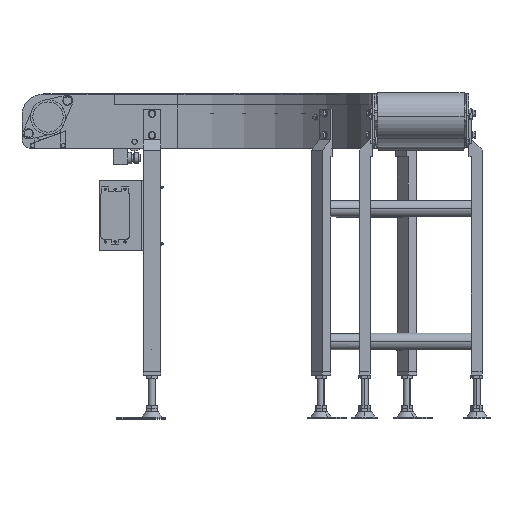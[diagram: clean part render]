
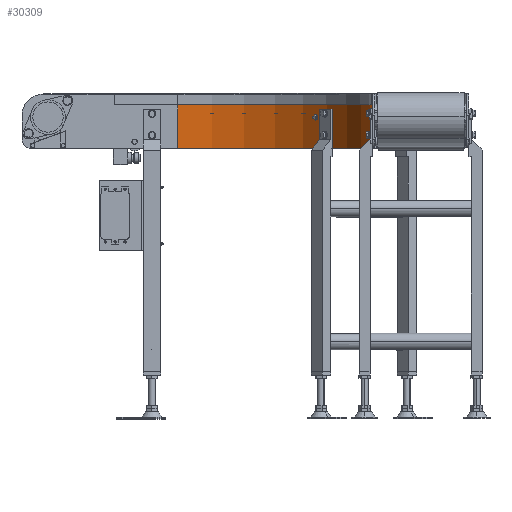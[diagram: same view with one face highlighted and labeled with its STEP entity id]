
A CAD part, top view. The second image highlights one B-rep face of the part: STEP entity #30309.
In plain terms, the highlighted cylindrical face has radius 450 mm (diameter 900 mm), a partial arc.
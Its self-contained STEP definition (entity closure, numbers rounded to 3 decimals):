
#1046 = CARTESIAN_POINT ( 'NONE',  ( 360., -25., 561. ) ) ;
#3895 = AXIS2_PLACEMENT_3D ( 'NONE', #14907, #10378, #47794 ) ;
#4488 = ORIENTED_EDGE ( 'NONE', *, *, #52758, .T. ) ;
#5817 = VERTEX_POINT ( 'NONE', #22948 ) ;
#7651 = ORIENTED_EDGE ( 'NONE', *, *, #50441, .T. ) ;
#7865 = CIRCLE ( 'NONE', #41623, 450. ) ;
#9799 = DIRECTION ( 'NONE',  ( 0., 1., 0. ) ) ;
#10378 = DIRECTION ( 'NONE',  ( 0., 1., 0. ) ) ;
#11546 = VECTOR ( 'NONE', #9799, 1000. ) ;
#12849 = DIRECTION ( 'NONE',  ( 0., 1., 0. ) ) ;
#13000 = VERTEX_POINT ( 'NONE', #18917 ) ;
#14620 = DIRECTION ( 'NONE',  ( 0., 0., -1. ) ) ;
#14907 = CARTESIAN_POINT ( 'NONE',  ( 360., -125., 561. ) ) ;
#15147 = CARTESIAN_POINT ( 'NONE',  ( 360., -125., 111. ) ) ;
#16812 = CARTESIAN_POINT ( 'NONE',  ( 810., -125., 561. ) ) ;
#18099 = FACE_OUTER_BOUND ( 'NONE', #33186, .T. ) ;
#18714 = ORIENTED_EDGE ( 'NONE', *, *, #41337, .T. ) ;
#18741 = CYLINDRICAL_SURFACE ( 'NONE', #3895, 450. ) ;
#18917 = CARTESIAN_POINT ( 'NONE',  ( 810., -25., 561. ) ) ;
#19520 = DIRECTION ( 'NONE',  ( 0., 1., 0. ) ) ;
#21401 = EDGE_CURVE ( 'NONE', #47174, #5817, #35014, .T. ) ;
#22615 = LINE ( 'NONE', #35036, #11546 ) ;
#22948 = CARTESIAN_POINT ( 'NONE',  ( 360., -25., 111. ) ) ;
#27313 = CARTESIAN_POINT ( 'NONE',  ( 360., -125., 561. ) ) ;
#30309 = ADVANCED_FACE ( 'NONE', ( #18099 ), #18741, .F. ) ;
#31982 = CARTESIAN_POINT ( 'NONE',  ( 360., -125., 111. ) ) ;
#33186 = EDGE_LOOP ( 'NONE', ( #18714, #4488, #33687, #7651 ) ) ;
#33687 = ORIENTED_EDGE ( 'NONE', *, *, #21401, .F. ) ;
#34465 = DIRECTION ( 'NONE',  ( 0., 0., 1. ) ) ;
#35014 = LINE ( 'NONE', #15147, #36345 ) ;
#35036 = CARTESIAN_POINT ( 'NONE',  ( 810., -125., 561. ) ) ;
#35502 = VERTEX_POINT ( 'NONE', #16812 ) ;
#36345 = VECTOR ( 'NONE', #19520, 1000. ) ;
#36348 = AXIS2_PLACEMENT_3D ( 'NONE', #1046, #12849, #34465 ) ;
#41337 = EDGE_CURVE ( 'NONE', #35502, #13000, #22615, .T. ) ;
#41623 = AXIS2_PLACEMENT_3D ( 'NONE', #27313, #47519, #14620 ) ;
#44759 = CIRCLE ( 'NONE', #36348, 450. ) ;
#47174 = VERTEX_POINT ( 'NONE', #31982 ) ;
#47519 = DIRECTION ( 'NONE',  ( 0., -1., 0. ) ) ;
#47794 = DIRECTION ( 'NONE',  ( 0., 0., 1. ) ) ;
#50441 = EDGE_CURVE ( 'NONE', #47174, #35502, #7865, .T. ) ;
#52758 = EDGE_CURVE ( 'NONE', #13000, #5817, #44759, .T. ) ;
